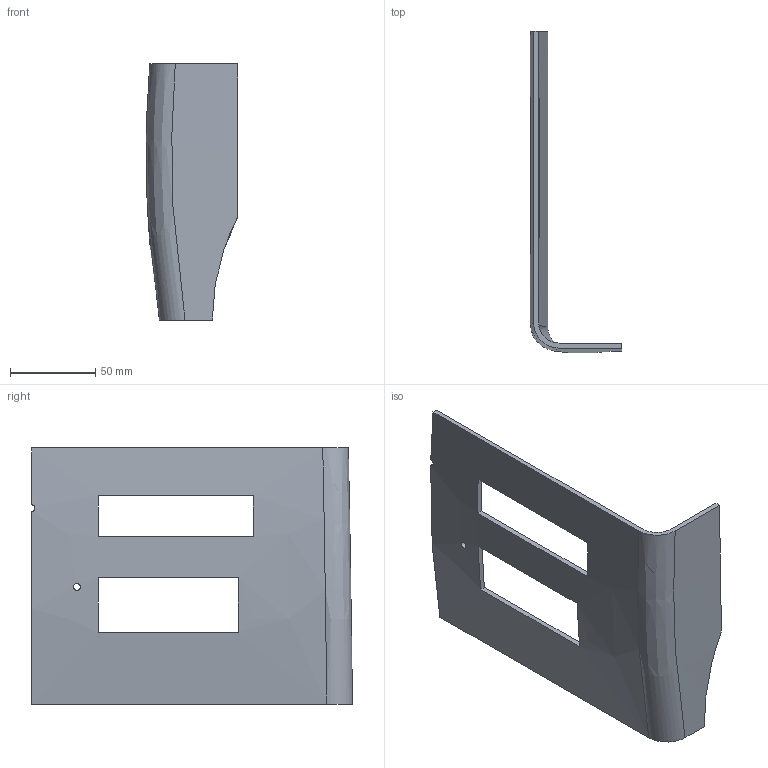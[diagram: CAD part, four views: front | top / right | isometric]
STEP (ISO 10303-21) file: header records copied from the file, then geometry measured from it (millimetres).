
FILE_DESCRIPTION(('Open CASCADE Model'),'2;1');
FILE_NAME('Open CASCADE Shape Model','2026-11-03T04:29:26',('Author'),( 'Open CASCADE'),'Open CASCADE STEP processor 7.8','Open CASCADE 7.8' ,'Unknown');
FILE_SCHEMA(('AUTOMOTIVE_DESIGN { 1 0 10303 214 1 1 1 1 }'));
Length unit declared in the file: millimetre
Products named in the file (1): Open CASCADE STEP translator 7.8 1
Bounding box: 53.81 x 188 x 150 mm (x, y, z)
Volume: 88045.3 mm3; surface area: 61858.9 mm2
Topology: 1 solids, 1 shells, 22 faces, 64 edges, 44 vertices
Faces by surface type: plane 13, bspline 6, cylinder 3
Full cylindrical faces by diameter (mm): 4 x1
Entity records: 2961 total; most frequent: CARTESIAN_POINT 1936, B_SPLINE_CURVE_WITH_KNOTS 136, ORIENTED_EDGE 128, PCURVE 128, DEFINITIONAL_REPRESENTATION 128, DIRECTION 90, EDGE_CURVE 64, SURFACE_CURVE 63
